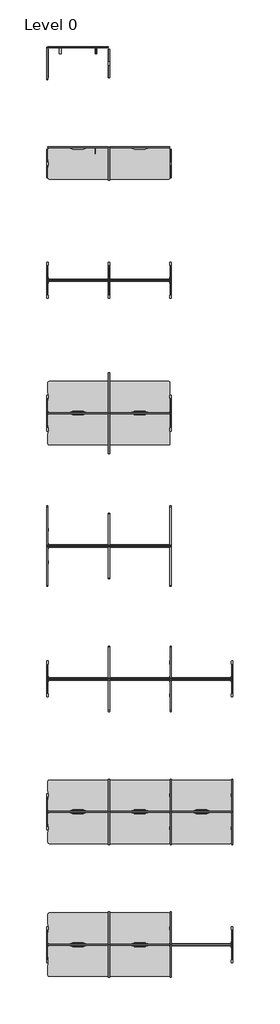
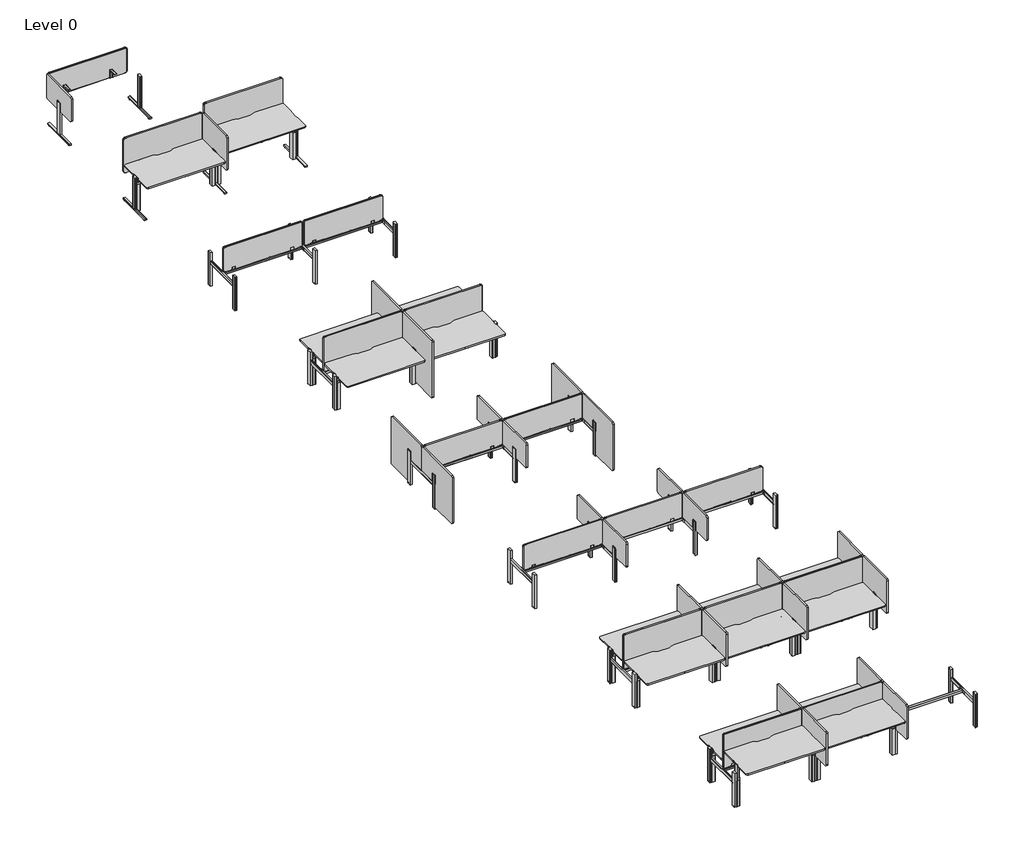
# One storey, incomplete: 75 furniture elements.
"""IFC4 building model written with IfcOpenShell, lengths in millimetres."""

from ifc_helpers import new_model, si_unit, origin, place, context, project, spatial, transform, mapped, element, save
from components import furniture_de327a2e, furniture_0de6fdd6, furniture_1050mm_high_desk_divider_a7e000da, furniture_1050mm_high_desk_divider_to_floor_1050mm_cd484663, furniture_1050mm_high_screen_for_1600mm_desk_4bbc980c, furniture_1050mm_high_screen_for_1600mm_desk_5fab72e6, furniture_1250mm_high_desk_divider_c3c9ed02, furniture_1250mm_high_desk_divider_to_floor_1050mm_4461f920, furniture_1250mm_high_screen_for_1600mm_desk_9eece2b1, furniture_1250mm_high_screen_for_1600mm_desk_d27042e6, furniture_1250mm_high_screen_for_1600mm_desk_09735f5d, add_on_frame_1600mm_back_to_back_desk_692f1a0c, add_on_frame_1600mm_single_desk_d9639cad, starter_frame_1600mm_back_to_back_desk_0066c329, starter_frame_1600mm_single_desk_b2a4bc26

model = new_model("IFC4")

# Units and contexts
model_context = context("Model", 3, world=origin())
ifc_project = project(units=[si_unit("LENGTHUNIT", "METRE", prefix="MILLI")], contexts=[model_context])

# Site, building, storey
site = spatial("IfcSite", under=ifc_project)
building = spatial("IfcBuilding", under=site)
storey = spatial("IfcBuildingStorey", under=building, Name="Level 0", Elevation=0.0)

# Furniture
placement = place(None, origin())
furniture_shape = furniture_de327a2e(model_context)
element("IfcFurniture", 1, ObjectType="DBLTD_TheSenatorGroup_OffcDsks_Workbase_Single_ElectricHAModule : 1600mm Single Electric Height Adjustable Desktop", at=placement, inside=storey, context=model_context, shape_type="MappedRepresentation", body=[
    mapped(furniture_shape, transform((-5012.408462, 3323.8236192, 0.0), x_axis=(1.0, 0.0, 0.0), y_axis=(0.0, 1.0, 0.0), z_axis=(0.0, 0.0, 1.0))),
])
element("IfcFurniture", 2, ObjectType="DBLTD_TheSenatorGroup_OffcDsks_Workbase_Single_ElectricHAModule : 1600mm Single Electric Height Adjustable Desktop", at=placement, inside=storey, context=model_context, shape_type="MappedRepresentation", body=[
    mapped(furniture_shape, transform((-5012.408462, -3576.1763808, 0.0), x_axis=(1.0, 0.0, 0.0), y_axis=(0.0, 1.0, 0.0), z_axis=(0.0, 0.0, 1.0))),
])
element("IfcFurniture", 3, ObjectType="DBLTD_TheSenatorGroup_OffcDsks_Workbase_Single_ElectricHAModule : 1600mm Single Electric Height Adjustable Desktop", at=placement, inside=storey, context=model_context, shape_type="MappedRepresentation", body=[
    mapped(furniture_shape, transform((-4857.408462, -1075.9760329, 0.0), x_axis=(-1.0, 0.0, 0.0), y_axis=(0.0, -1.0, 0.0), z_axis=(0.0, 0.0, 1.0))),
])
element("IfcFurniture", 4, ObjectType="DBLTD_TheSenatorGroup_OffcDsks_Workbase_Single_ElectricHAModule : 1600mm Single Electric Height Adjustable Desktop", at=placement, inside=storey, context=model_context, shape_type="MappedRepresentation", body=[
    mapped(furniture_shape, transform((-3412.3324161, -3576.1763808, 0.0), x_axis=(1.0, 0.0, 0.0), y_axis=(0.0, 1.0, 0.0), z_axis=(0.0, 0.0, 1.0))),
])
element("IfcFurniture", 5, ObjectType="DBLTD_TheSenatorGroup_OffcDsks_Workbase_Single_ElectricHAModule : 1600mm Single Electric Height Adjustable Desktop", at=placement, inside=storey, context=model_context, shape_type="MappedRepresentation", body=[
    mapped(furniture_shape, transform((-3257.3324161, -1075.9760329, 0.0), x_axis=(-1.0, 0.0, 0.0), y_axis=(0.0, -1.0, 0.0), z_axis=(0.0, 0.0, 1.0))),
])
element("IfcFurniture", 6, ObjectType="DBLTD_TheSenatorGroup_OffcDsks_Workbase_Single_ElectricHAModule : 1600mm Single Electric Height Adjustable Desktop", at=placement, inside=storey, context=model_context, shape_type="MappedRepresentation", body=[
    mapped(furniture_shape, transform((-5012.408462, -13926.1763808, 0.0), x_axis=(1.0, 0.0, 0.0), y_axis=(0.0, 1.0, 0.0), z_axis=(0.0, 0.0, 1.0))),
])
element("IfcFurniture", 7, ObjectType="DBLTD_TheSenatorGroup_OffcDsks_Workbase_Single_ElectricHAModule : 1600mm Single Electric Height Adjustable Desktop", at=placement, inside=storey, context=model_context, shape_type="MappedRepresentation", body=[
    mapped(furniture_shape, transform((-4857.408462, -11425.9760329, 0.0), x_axis=(-1.0, 0.0, 0.0), y_axis=(0.0, -1.0, 0.0), z_axis=(0.0, 0.0, 1.0))),
])
element("IfcFurniture", 8, ObjectType="DBLTD_TheSenatorGroup_OffcDsks_Workbase_Single_ElectricHAModule : 1600mm Single Electric Height Adjustable Desktop", at=placement, inside=storey, context=model_context, shape_type="MappedRepresentation", body=[
    mapped(furniture_shape, transform((-3412.3324161, -13926.1763808, 0.0), x_axis=(1.0, 0.0, 0.0), y_axis=(0.0, 1.0, 0.0), z_axis=(0.0, 0.0, 1.0))),
])
element("IfcFurniture", 9, ObjectType="DBLTD_TheSenatorGroup_OffcDsks_Workbase_Single_ElectricHAModule : 1600mm Single Electric Height Adjustable Desktop", at=placement, inside=storey, context=model_context, shape_type="MappedRepresentation", body=[
    mapped(furniture_shape, transform((-3257.3324161, -11425.9760329, 0.0), x_axis=(-1.0, 0.0, 0.0), y_axis=(0.0, -1.0, 0.0), z_axis=(0.0, 0.0, 1.0))),
])
element("IfcFurniture", 10, ObjectType="DBLTD_TheSenatorGroup_OffcDsks_Workbase_Single_ElectricHAModule : 1600mm Single Electric Height Adjustable Desktop", at=placement, inside=storey, context=model_context, shape_type="MappedRepresentation", body=[
    mapped(furniture_shape, transform((-1812.3324161, -13926.1763808, 0.0), x_axis=(1.0, 0.0, 0.0), y_axis=(0.0, 1.0, 0.0), z_axis=(0.0, 0.0, 1.0))),
])
element("IfcFurniture", 11, ObjectType="DBLTD_TheSenatorGroup_OffcDsks_Workbase_Single_ElectricHAModule : 1600mm Single Electric Height Adjustable Desktop", at=placement, inside=storey, context=model_context, shape_type="MappedRepresentation", body=[
    mapped(furniture_shape, transform((-1657.3324161, -11425.9760329, 0.0), x_axis=(-1.0, 0.0, 0.0), y_axis=(0.0, -1.0, 0.0), z_axis=(0.0, 0.0, 1.0))),
])
element("IfcFurniture", 12, ObjectType="DBLTD_TheSenatorGroup_OffcDsks_Workbase_Single_ElectricHAModule : 1600mm Single Electric Height Adjustable Desktop", at=placement, inside=storey, context=model_context, shape_type="MappedRepresentation", body=[
    mapped(furniture_shape, transform((-4857.408462, -14875.9760329, 0.0), x_axis=(-1.0, 0.0, 0.0), y_axis=(0.0, -1.0, 0.0), z_axis=(0.0, 0.0, 1.0))),
])
element("IfcFurniture", 13, ObjectType="DBLTD_TheSenatorGroup_OffcDsks_Workbase_Single_ElectricHAModule : 1600mm Single Electric Height Adjustable Desktop", at=placement, inside=storey, context=model_context, shape_type="MappedRepresentation", body=[
    mapped(furniture_shape, transform((-3257.3324161, -14875.9760329, 0.0), x_axis=(-1.0, 0.0, 0.0), y_axis=(0.0, -1.0, 0.0), z_axis=(0.0, 0.0, 1.0))),
])
furniture_2_shape = furniture_0de6fdd6(model_context)
element("IfcFurniture", 14, ObjectType="DBLTD_TheSenatorGroup_OffcDsks_Workbase_Single_ElectricHAModule : 1600mm Single Electric Height Adjustable Desktop", at=placement, inside=storey, context=model_context, shape_type="MappedRepresentation", body=[
    mapped(furniture_2_shape, transform((-3412.408462, 3323.8236192, 0.0), x_axis=(1.0, 0.0, 0.0), y_axis=(0.0, 1.0, 0.0), z_axis=(0.0, 0.0, 1.0))),
])
element("IfcFurniture", 15, ObjectType="DBLTD_TheSenatorGroup_OffcDsks_Workbase_Single_ElectricHAModule : 1600mm Single Electric Height Adjustable Desktop", at=placement, inside=storey, context=model_context, shape_type="MappedRepresentation", body=[
    mapped(furniture_2_shape, transform((-5012.408462, -17376.1763808, 0.0), x_axis=(1.0, 0.0, 0.0), y_axis=(0.0, 1.0, 0.0), z_axis=(0.0, 0.0, 1.0))),
])
element("IfcFurniture", 16, ObjectType="DBLTD_TheSenatorGroup_OffcDsks_Workbase_Single_ElectricHAModule : 1600mm Single Electric Height Adjustable Desktop", at=placement, inside=storey, context=model_context, shape_type="MappedRepresentation", body=[
    mapped(furniture_2_shape, transform((-3412.3324161, -17376.1763808, 0.0), x_axis=(1.0, 0.0, 0.0), y_axis=(0.0, 1.0, 0.0), z_axis=(0.0, 0.0, 1.0))),
])
furniture_1050mm_high_desk_divider_shape = furniture_1050mm_high_desk_divider_a7e000da(model_context)
element("IfcFurniture", 17, ObjectType="DBLTD_TheSenatorGroup_OffcDsks_Workbase_DeskDivider_FabricScreen : 1050mm High Desk Divider", at=placement, inside=storey, context=model_context, shape_type="MappedRepresentation", body=[
    mapped(furniture_1050mm_high_desk_divider_shape, transform((-5832.408462, 6348.8236192, 0.0), x_axis=(1.0, 0.0, 0.0), y_axis=(0.0, 1.0, 0.0), z_axis=(0.0, 0.0, 1.0))),
])
element("IfcFurniture", 18, ObjectType="DBLTD_TheSenatorGroup_OffcDsks_Workbase_DeskDivider_FabricScreen : 1050mm High Desk Divider", at=placement, inside=storey, context=model_context, shape_type="MappedRepresentation", body=[
    mapped(furniture_1050mm_high_desk_divider_shape, transform((-4232.2563701, -6601.1763808, 0.0), x_axis=(1.0, 0.0, 0.0), y_axis=(0.0, 1.0, 0.0), z_axis=(0.0, 0.0, 1.0))),
])
element("IfcFurniture", 19, ObjectType="DBLTD_TheSenatorGroup_OffcDsks_Workbase_DeskDivider_FabricScreen : 1050mm High Desk Divider", at=placement, inside=storey, context=model_context, shape_type="MappedRepresentation", body=[
    mapped(furniture_1050mm_high_desk_divider_shape, transform((-4037.3440852, -4950.9760329, 0.0), x_axis=(-1.0, 0.0, 0.0), y_axis=(0.0, -1.0, 0.0), z_axis=(0.0, 0.0, 1.0))),
])
element("IfcFurniture", 20, ObjectType="DBLTD_TheSenatorGroup_OffcDsks_Workbase_DeskDivider_FabricScreen : 1050mm High Desk Divider", at=placement, inside=storey, context=model_context, shape_type="MappedRepresentation", body=[
    mapped(furniture_1050mm_high_desk_divider_shape, transform((-4232.2563701, -10051.1763808, 0.0), x_axis=(1.0, 0.0, 0.0), y_axis=(0.0, 1.0, 0.0), z_axis=(0.0, 0.0, 1.0))),
])
element("IfcFurniture", 21, ObjectType="DBLTD_TheSenatorGroup_OffcDsks_Workbase_DeskDivider_FabricScreen : 1050mm High Desk Divider", at=placement, inside=storey, context=model_context, shape_type="MappedRepresentation", body=[
    mapped(furniture_1050mm_high_desk_divider_shape, transform((-4037.3440852, -8400.9760329, 0.0), x_axis=(-1.0, 0.0, 0.0), y_axis=(0.0, -1.0, 0.0), z_axis=(0.0, 0.0, 1.0))),
])
element("IfcFurniture", 22, ObjectType="DBLTD_TheSenatorGroup_OffcDsks_Workbase_DeskDivider_FabricScreen : 1050mm High Desk Divider", at=placement, inside=storey, context=model_context, shape_type="MappedRepresentation", body=[
    mapped(furniture_1050mm_high_desk_divider_shape, transform((-2632.4548, -10051.1763808, 0.0), x_axis=(1.0, 0.0, 0.0), y_axis=(0.0, 1.0, 0.0), z_axis=(0.0, 0.0, 1.0))),
])
element("IfcFurniture", 23, ObjectType="DBLTD_TheSenatorGroup_OffcDsks_Workbase_DeskDivider_FabricScreen : 1050mm High Desk Divider", at=placement, inside=storey, context=model_context, shape_type="MappedRepresentation", body=[
    mapped(furniture_1050mm_high_desk_divider_shape, transform((-2437.5425152, -8400.9760329, 0.0), x_axis=(-1.0, 0.0, 0.0), y_axis=(0.0, -1.0, 0.0), z_axis=(0.0, 0.0, 1.0))),
])
furniture_1050mm_high_desk_divider_to_floor_1050mm_shape = furniture_1050mm_high_desk_divider_to_floor_1050mm_cd484663(model_context)
element("IfcFurniture", 24, ObjectType="DBLTD_TheSenatorGroup_OffcDsks_Workbase_DeskDivider_FabricScreen : 1050mm High Desk Divider to Floor 1050mm", at=placement, inside=storey, context=model_context, shape_type="MappedRepresentation", body=[
    mapped(furniture_1050mm_high_desk_divider_to_floor_1050mm_shape, transform((-5831.2694547, -6601.1763808, 0.0), x_axis=(1.0, 0.0, 0.0), y_axis=(0.0, 1.0, 0.0), z_axis=(0.0, 0.0, 1.0))),
])
element("IfcFurniture", 25, ObjectType="DBLTD_TheSenatorGroup_OffcDsks_Workbase_DeskDivider_FabricScreen : 1050mm High Desk Divider to Floor 1050mm", at=placement, inside=storey, context=model_context, shape_type="MappedRepresentation", body=[
    mapped(furniture_1050mm_high_desk_divider_to_floor_1050mm_shape, transform((-5636.3571699, -4950.9760329, 0.0), x_axis=(-1.0, 0.0, 0.0), y_axis=(0.0, -1.0, 0.0), z_axis=(0.0, 0.0, 1.0))),
])
element("IfcFurniture", 26, ObjectType="DBLTD_TheSenatorGroup_OffcDsks_Workbase_DeskDivider_FabricScreen : 1050mm High Desk Divider to Floor 1050mm", at=placement, inside=storey, context=model_context, shape_type="MappedRepresentation", body=[
    mapped(furniture_1050mm_high_desk_divider_to_floor_1050mm_shape, transform((-2633.3723169, -6601.1763808, 0.0), x_axis=(1.0, 0.0, 0.0), y_axis=(0.0, 1.0, 0.0), z_axis=(0.0, 0.0, 1.0))),
])
element("IfcFurniture", 27, ObjectType="DBLTD_TheSenatorGroup_OffcDsks_Workbase_DeskDivider_FabricScreen : 1050mm High Desk Divider to Floor 1050mm", at=placement, inside=storey, context=model_context, shape_type="MappedRepresentation", body=[
    mapped(furniture_1050mm_high_desk_divider_to_floor_1050mm_shape, transform((-2438.4600321, -4950.9760329, 0.0), x_axis=(-1.0, 0.0, 0.0), y_axis=(0.0, -1.0, 0.0), z_axis=(0.0, 0.0, 1.0))),
])
furniture_1050mm_high_screen_for_1600mm_desk_shape = furniture_1050mm_high_screen_for_1600mm_desk_4bbc980c(model_context)
element("IfcFurniture", 28, ObjectType="DBLTD_TheSenatorGroup_OffcDsks_Workbase_BackToBack_FabricScreen : 1050mm High Screen for 1600mm Desk", at=placement, inside=storey, context=model_context, shape_type="MappedRepresentation", body=[
    mapped(furniture_1050mm_high_screen_for_1600mm_desk_shape, transform((-5012.408462, 298.8236192, 0.0), x_axis=(1.0, 0.0, 0.0), y_axis=(0.0, 1.0, 0.0), z_axis=(0.0, 0.0, 1.0))),
])
element("IfcFurniture", 29, ObjectType="DBLTD_TheSenatorGroup_OffcDsks_Workbase_BackToBack_FabricScreen : 1050mm High Screen for 1600mm Desk", at=placement, inside=storey, context=model_context, shape_type="MappedRepresentation", body=[
    mapped(furniture_1050mm_high_screen_for_1600mm_desk_shape, transform((-3412.3324161, 298.8236192, 0.0), x_axis=(1.0, 0.0, 0.0), y_axis=(0.0, 1.0, 0.0), z_axis=(0.0, 0.0, 1.0))),
])
element("IfcFurniture", 30, ObjectType="DBLTD_TheSenatorGroup_OffcDsks_Workbase_BackToBack_FabricScreen : 1050mm High Screen for 1600mm Desk", at=placement, inside=storey, context=model_context, shape_type="MappedRepresentation", body=[
    mapped(furniture_1050mm_high_screen_for_1600mm_desk_shape, transform((-5012.408462, -6601.1763808, 0.0), x_axis=(1.0, 0.0, 0.0), y_axis=(0.0, 1.0, 0.0), z_axis=(0.0, 0.0, 1.0))),
])
element("IfcFurniture", 31, ObjectType="DBLTD_TheSenatorGroup_OffcDsks_Workbase_BackToBack_FabricScreen : 1050mm High Screen for 1600mm Desk", at=placement, inside=storey, context=model_context, shape_type="MappedRepresentation", body=[
    mapped(furniture_1050mm_high_screen_for_1600mm_desk_shape, transform((-3412.3324161, -6601.1763808, 0.0), x_axis=(1.0, 0.0, 0.0), y_axis=(0.0, 1.0, 0.0), z_axis=(0.0, 0.0, 1.0))),
])
element("IfcFurniture", 32, ObjectType="DBLTD_TheSenatorGroup_OffcDsks_Workbase_BackToBack_FabricScreen : 1050mm High Screen for 1600mm Desk", at=placement, inside=storey, context=model_context, shape_type="MappedRepresentation", body=[
    mapped(furniture_1050mm_high_screen_for_1600mm_desk_shape, transform((-5012.408462, -10051.1763808, 0.0), x_axis=(1.0, 0.0, 0.0), y_axis=(0.0, 1.0, 0.0), z_axis=(0.0, 0.0, 1.0))),
])
element("IfcFurniture", 33, ObjectType="DBLTD_TheSenatorGroup_OffcDsks_Workbase_BackToBack_FabricScreen : 1050mm High Screen for 1600mm Desk", at=placement, inside=storey, context=model_context, shape_type="MappedRepresentation", body=[
    mapped(furniture_1050mm_high_screen_for_1600mm_desk_shape, transform((-3412.3324161, -10051.1763808, 0.0), x_axis=(1.0, 0.0, 0.0), y_axis=(0.0, 1.0, 0.0), z_axis=(0.0, 0.0, 1.0))),
])
element("IfcFurniture", 34, ObjectType="DBLTD_TheSenatorGroup_OffcDsks_Workbase_BackToBack_FabricScreen : 1050mm High Screen for 1600mm Desk", at=placement, inside=storey, context=model_context, shape_type="MappedRepresentation", body=[
    mapped(furniture_1050mm_high_screen_for_1600mm_desk_shape, transform((-1812.3324161, -10051.1763808, 0.0), x_axis=(1.0, 0.0, 0.0), y_axis=(0.0, 1.0, 0.0), z_axis=(0.0, 0.0, 1.0))),
])
furniture_1050mm_high_screen_for_1600mm_desk_2_shape = furniture_1050mm_high_screen_for_1600mm_desk_5fab72e6(model_context)
element("IfcFurniture", 35, ObjectType="DBLTD_TheSenatorGroup_OffcDsks_Workbase_Single_FabricScreen : 1050mm High Screen for 1600mm Desk", at=placement, inside=storey, context=model_context, shape_type="MappedRepresentation", body=[
    mapped(furniture_1050mm_high_screen_for_1600mm_desk_2_shape, transform((-5012.408462, 6348.8236192, 0.0), x_axis=(1.0, 0.0, 0.0), y_axis=(0.0, 1.0, 0.0), z_axis=(0.0, 0.0, 1.0))),
])
furniture_1250mm_high_desk_divider_shape = furniture_1250mm_high_desk_divider_c3c9ed02(model_context)
element("IfcFurniture", 36, ObjectType="DBLTD_TheSenatorGroup_OffcDsks_Workbase_DeskDivider_FabricScreen : 1250mm High Desk Divider", at=placement, inside=storey, context=model_context, shape_type="MappedRepresentation", body=[
    mapped(furniture_1250mm_high_desk_divider_shape, transform((-4232.4085383, 3748.8236192, 0.0), x_axis=(1.0, 0.0, 0.0), y_axis=(0.0, 1.0, 0.0), z_axis=(0.0, 0.0, 1.0))),
])
element("IfcFurniture", 37, ObjectType="DBLTD_TheSenatorGroup_OffcDsks_Workbase_DeskDivider_FabricScreen : 1250mm High Desk Divider", at=placement, inside=storey, context=model_context, shape_type="MappedRepresentation", body=[
    mapped(furniture_1250mm_high_desk_divider_shape, transform((-4232.2563701, -13501.1763808, 0.0), x_axis=(1.0, 0.0, 0.0), y_axis=(0.0, 1.0, 0.0), z_axis=(0.0, 0.0, 1.0))),
])
element("IfcFurniture", 38, ObjectType="DBLTD_TheSenatorGroup_OffcDsks_Workbase_DeskDivider_FabricScreen : 1250mm High Desk Divider", at=placement, inside=storey, context=model_context, shape_type="MappedRepresentation", body=[
    mapped(furniture_1250mm_high_desk_divider_shape, transform((-4037.3440852, -11850.9760329, 0.0), x_axis=(-1.0, 0.0, 0.0), y_axis=(0.0, -1.0, 0.0), z_axis=(0.0, 0.0, 1.0))),
])
element("IfcFurniture", 39, ObjectType="DBLTD_TheSenatorGroup_OffcDsks_Workbase_DeskDivider_FabricScreen : 1250mm High Desk Divider", at=placement, inside=storey, context=model_context, shape_type="MappedRepresentation", body=[
    mapped(furniture_1250mm_high_desk_divider_shape, transform((-2632.4548, -13501.1763808, 0.0), x_axis=(1.0, 0.0, 0.0), y_axis=(0.0, 1.0, 0.0), z_axis=(0.0, 0.0, 1.0))),
])
element("IfcFurniture", 40, ObjectType="DBLTD_TheSenatorGroup_OffcDsks_Workbase_DeskDivider_FabricScreen : 1250mm High Desk Divider", at=placement, inside=storey, context=model_context, shape_type="MappedRepresentation", body=[
    mapped(furniture_1250mm_high_desk_divider_shape, transform((-2437.5425152, -11850.9760329, 0.0), x_axis=(-1.0, 0.0, 0.0), y_axis=(0.0, -1.0, 0.0), z_axis=(0.0, 0.0, 1.0))),
])
element("IfcFurniture", 41, ObjectType="DBLTD_TheSenatorGroup_OffcDsks_Workbase_DeskDivider_FabricScreen : 1250mm High Desk Divider", at=placement, inside=storey, context=model_context, shape_type="MappedRepresentation", body=[
    mapped(furniture_1250mm_high_desk_divider_shape, transform((-1032.4548, -13501.1763808, 0.0), x_axis=(1.0, 0.0, 0.0), y_axis=(0.0, 1.0, 0.0), z_axis=(0.0, 0.0, 1.0))),
])
element("IfcFurniture", 42, ObjectType="DBLTD_TheSenatorGroup_OffcDsks_Workbase_DeskDivider_FabricScreen : 1250mm High Desk Divider", at=placement, inside=storey, context=model_context, shape_type="MappedRepresentation", body=[
    mapped(furniture_1250mm_high_desk_divider_shape, transform((-837.5425152, -11850.9760329, 0.0), x_axis=(-1.0, 0.0, 0.0), y_axis=(0.0, -1.0, 0.0), z_axis=(0.0, 0.0, 1.0))),
])
element("IfcFurniture", 43, ObjectType="DBLTD_TheSenatorGroup_OffcDsks_Workbase_DeskDivider_FabricScreen : 1250mm High Desk Divider", at=placement, inside=storey, context=model_context, shape_type="MappedRepresentation", body=[
    mapped(furniture_1250mm_high_desk_divider_shape, transform((-4232.2563701, -16951.1763808, 0.0), x_axis=(1.0, 0.0, 0.0), y_axis=(0.0, 1.0, 0.0), z_axis=(0.0, 0.0, 1.0))),
])
element("IfcFurniture", 44, ObjectType="DBLTD_TheSenatorGroup_OffcDsks_Workbase_DeskDivider_FabricScreen : 1250mm High Desk Divider", at=placement, inside=storey, context=model_context, shape_type="MappedRepresentation", body=[
    mapped(furniture_1250mm_high_desk_divider_shape, transform((-4037.3440852, -15300.9760329, 0.0), x_axis=(-1.0, 0.0, 0.0), y_axis=(0.0, -1.0, 0.0), z_axis=(0.0, 0.0, 1.0))),
])
element("IfcFurniture", 45, ObjectType="DBLTD_TheSenatorGroup_OffcDsks_Workbase_DeskDivider_FabricScreen : 1250mm High Desk Divider", at=placement, inside=storey, context=model_context, shape_type="MappedRepresentation", body=[
    mapped(furniture_1250mm_high_desk_divider_shape, transform((-2632.4548, -16951.1763808, 0.0), x_axis=(1.0, 0.0, 0.0), y_axis=(0.0, 1.0, 0.0), z_axis=(0.0, 0.0, 1.0))),
])
element("IfcFurniture", 46, ObjectType="DBLTD_TheSenatorGroup_OffcDsks_Workbase_DeskDivider_FabricScreen : 1250mm High Desk Divider", at=placement, inside=storey, context=model_context, shape_type="MappedRepresentation", body=[
    mapped(furniture_1250mm_high_desk_divider_shape, transform((-2437.5425152, -15300.9760329, 0.0), x_axis=(-1.0, 0.0, 0.0), y_axis=(0.0, -1.0, 0.0), z_axis=(0.0, 0.0, 1.0))),
])
furniture_1250mm_high_desk_divider_to_floor_1050mm_shape = furniture_1250mm_high_desk_divider_to_floor_1050mm_4461f920(model_context)
element("IfcFurniture", 47, ObjectType="DBLTD_TheSenatorGroup_OffcDsks_Workbase_DeskDivider_FabricScreen : 1250mm High Desk Divider to Floor 1050mm", at=placement, inside=storey, context=model_context, shape_type="MappedRepresentation", body=[
    mapped(furniture_1250mm_high_desk_divider_to_floor_1050mm_shape, transform((-4232.2563701, -3151.1763808, 0.0), x_axis=(1.0, 0.0, 0.0), y_axis=(0.0, 1.0, 0.0), z_axis=(0.0, 0.0, 1.0))),
])
element("IfcFurniture", 48, ObjectType="DBLTD_TheSenatorGroup_OffcDsks_Workbase_DeskDivider_FabricScreen : 1250mm High Desk Divider to Floor 1050mm", at=placement, inside=storey, context=model_context, shape_type="MappedRepresentation", body=[
    mapped(furniture_1250mm_high_desk_divider_to_floor_1050mm_shape, transform((-4037.3440852, -1500.9760329, 0.0), x_axis=(-1.0, 0.0, 0.0), y_axis=(0.0, -1.0, 0.0), z_axis=(0.0, 0.0, 1.0))),
])
furniture_1250mm_high_screen_for_1600mm_desk_shape = furniture_1250mm_high_screen_for_1600mm_desk_9eece2b1(model_context)
element("IfcFurniture", 49, ObjectType="DBLTD_TheSenatorGroup_OffcDsks_Workbase_BackToBack_FabricScreen : 1250mm High Screen for 1600mm Desk", at=placement, inside=storey, context=model_context, shape_type="MappedRepresentation", body=[
    mapped(furniture_1250mm_high_screen_for_1600mm_desk_shape, transform((-5012.408462, -3151.1763808, 0.0), x_axis=(1.0, 0.0, 0.0), y_axis=(0.0, 1.0, 0.0), z_axis=(0.0, 0.0, 1.0))),
])
element("IfcFurniture", 50, ObjectType="DBLTD_TheSenatorGroup_OffcDsks_Workbase_BackToBack_FabricScreen : 1250mm High Screen for 1600mm Desk", at=placement, inside=storey, context=model_context, shape_type="MappedRepresentation", body=[
    mapped(furniture_1250mm_high_screen_for_1600mm_desk_shape, transform((-3412.3324161, -3151.1763808, 0.0), x_axis=(1.0, 0.0, 0.0), y_axis=(0.0, 1.0, 0.0), z_axis=(0.0, 0.0, 1.0))),
])
element("IfcFurniture", 51, ObjectType="DBLTD_TheSenatorGroup_OffcDsks_Workbase_BackToBack_FabricScreen : 1250mm High Screen for 1600mm Desk", at=placement, inside=storey, context=model_context, shape_type="MappedRepresentation", body=[
    mapped(furniture_1250mm_high_screen_for_1600mm_desk_shape, transform((-5012.408462, -13501.1763808, 0.0), x_axis=(1.0, 0.0, 0.0), y_axis=(0.0, 1.0, 0.0), z_axis=(0.0, 0.0, 1.0))),
])
element("IfcFurniture", 52, ObjectType="DBLTD_TheSenatorGroup_OffcDsks_Workbase_BackToBack_FabricScreen : 1250mm High Screen for 1600mm Desk", at=placement, inside=storey, context=model_context, shape_type="MappedRepresentation", body=[
    mapped(furniture_1250mm_high_screen_for_1600mm_desk_shape, transform((-3412.3324161, -13501.1763808, 0.0), x_axis=(1.0, 0.0, 0.0), y_axis=(0.0, 1.0, 0.0), z_axis=(0.0, 0.0, 1.0))),
])
element("IfcFurniture", 53, ObjectType="DBLTD_TheSenatorGroup_OffcDsks_Workbase_BackToBack_FabricScreen : 1250mm High Screen for 1600mm Desk", at=placement, inside=storey, context=model_context, shape_type="MappedRepresentation", body=[
    mapped(furniture_1250mm_high_screen_for_1600mm_desk_shape, transform((-1812.3324161, -13501.1763808, 0.0), x_axis=(1.0, 0.0, 0.0), y_axis=(0.0, 1.0, 0.0), z_axis=(0.0, 0.0, 1.0))),
])
element("IfcFurniture", 54, ObjectType="DBLTD_TheSenatorGroup_OffcDsks_Workbase_BackToBack_FabricScreen : 1250mm High Screen for 1600mm Desk", at=placement, inside=storey, context=model_context, shape_type="MappedRepresentation", body=[
    mapped(furniture_1250mm_high_screen_for_1600mm_desk_shape, transform((-5012.408462, -16951.1763808, 0.0), x_axis=(1.0, 0.0, 0.0), y_axis=(0.0, 1.0, 0.0), z_axis=(0.0, 0.0, 1.0))),
])
element("IfcFurniture", 55, ObjectType="DBLTD_TheSenatorGroup_OffcDsks_Workbase_BackToBack_FabricScreen : 1250mm High Screen for 1600mm Desk", at=placement, inside=storey, context=model_context, shape_type="MappedRepresentation", body=[
    mapped(furniture_1250mm_high_screen_for_1600mm_desk_shape, transform((-3412.3324161, -16951.1763808, 0.0), x_axis=(1.0, 0.0, 0.0), y_axis=(0.0, 1.0, 0.0), z_axis=(0.0, 0.0, 1.0))),
])
furniture_1250mm_high_screen_for_1600mm_desk_2_shape = furniture_1250mm_high_screen_for_1600mm_desk_d27042e6(model_context)
element("IfcFurniture", 56, ObjectType="DBLTD_TheSenatorGroup_OffcDsks_Workbase_Single_FabricScreen : 1250mm High Screen for 1600mm Desk", at=placement, inside=storey, context=model_context, shape_type="MappedRepresentation", body=[
    mapped(furniture_1250mm_high_screen_for_1600mm_desk_2_shape, transform((-5012.408462, 3748.8236192, 0.0), x_axis=(1.0, 0.0, 0.0), y_axis=(0.0, 1.0, 0.0), z_axis=(0.0, 0.0, 1.0))),
])
furniture_1250mm_high_screen_for_1600mm_desk_3_shape = furniture_1250mm_high_screen_for_1600mm_desk_09735f5d(model_context)
element("IfcFurniture", 57, ObjectType="DBLTD_TheSenatorGroup_OffcDsks_Workbase_Single_FabricScreen : 1250mm High Screen for 1600mm Desk", at=placement, inside=storey, context=model_context, shape_type="MappedRepresentation", body=[
    mapped(furniture_1250mm_high_screen_for_1600mm_desk_3_shape, transform((-3412.408462, 3748.8236192, 0.0), x_axis=(1.0, 0.0, 0.0), y_axis=(0.0, 1.0, 0.0), z_axis=(0.0, 0.0, 1.0))),
])
add_on_frame_1600mm_back_to_back_desk_shape = add_on_frame_1600mm_back_to_back_desk_692f1a0c(model_context)
element("IfcFurniture", 58, ObjectType="DBLTD_TheSenatorGroup_OffcDsks_Workbase_BackToBack_AddOnFrame : Add On Frame, 1600mm Back to Back Desk", at=placement, inside=storey, context=model_context, shape_type="MappedRepresentation", body=[
    mapped(add_on_frame_1600mm_back_to_back_desk_shape, transform((-3412.3324161, 298.8236192, 0.0), x_axis=(1.0, 0.0, 0.0), y_axis=(0.0, 1.0, 0.0), z_axis=(0.0, 0.0, 1.0))),
])
element("IfcFurniture", 59, ObjectType="DBLTD_TheSenatorGroup_OffcDsks_Workbase_BackToBack_AddOnFrame : Add On Frame, 1600mm Back to Back Desk", at=placement, inside=storey, context=model_context, shape_type="MappedRepresentation", body=[
    mapped(add_on_frame_1600mm_back_to_back_desk_shape, transform((-3412.3324161, -3151.1763808, 0.0), x_axis=(1.0, 0.0, 0.0), y_axis=(0.0, 1.0, 0.0), z_axis=(0.0, 0.0, 1.0))),
])
element("IfcFurniture", 60, ObjectType="DBLTD_TheSenatorGroup_OffcDsks_Workbase_BackToBack_AddOnFrame : Add On Frame, 1600mm Back to Back Desk", at=placement, inside=storey, context=model_context, shape_type="MappedRepresentation", body=[
    mapped(add_on_frame_1600mm_back_to_back_desk_shape, transform((-3412.3324161, -6601.1763808, 0.0), x_axis=(1.0, 0.0, 0.0), y_axis=(0.0, 1.0, 0.0), z_axis=(0.0, 0.0, 1.0))),
])
element("IfcFurniture", 61, ObjectType="DBLTD_TheSenatorGroup_OffcDsks_Workbase_BackToBack_AddOnFrame : Add On Frame, 1600mm Back to Back Desk", at=placement, inside=storey, context=model_context, shape_type="MappedRepresentation", body=[
    mapped(add_on_frame_1600mm_back_to_back_desk_shape, transform((-3412.3324161, -10051.1763808, 0.0), x_axis=(1.0, 0.0, 0.0), y_axis=(0.0, 1.0, 0.0), z_axis=(0.0, 0.0, 1.0))),
])
element("IfcFurniture", 62, ObjectType="DBLTD_TheSenatorGroup_OffcDsks_Workbase_BackToBack_AddOnFrame : Add On Frame, 1600mm Back to Back Desk", at=placement, inside=storey, context=model_context, shape_type="MappedRepresentation", body=[
    mapped(add_on_frame_1600mm_back_to_back_desk_shape, transform((-1812.3324161, -10051.1763808, 0.0), x_axis=(1.0, 0.0, 0.0), y_axis=(0.0, 1.0, 0.0), z_axis=(0.0, 0.0, 1.0))),
])
element("IfcFurniture", 63, ObjectType="DBLTD_TheSenatorGroup_OffcDsks_Workbase_BackToBack_AddOnFrame : Add On Frame, 1600mm Back to Back Desk", at=placement, inside=storey, context=model_context, shape_type="MappedRepresentation", body=[
    mapped(add_on_frame_1600mm_back_to_back_desk_shape, transform((-3412.3324161, -13501.1763808, 0.0), x_axis=(1.0, 0.0, 0.0), y_axis=(0.0, 1.0, 0.0), z_axis=(0.0, 0.0, 1.0))),
])
element("IfcFurniture", 64, ObjectType="DBLTD_TheSenatorGroup_OffcDsks_Workbase_BackToBack_AddOnFrame : Add On Frame, 1600mm Back to Back Desk", at=placement, inside=storey, context=model_context, shape_type="MappedRepresentation", body=[
    mapped(add_on_frame_1600mm_back_to_back_desk_shape, transform((-1812.3324161, -13501.1763808, 0.0), x_axis=(1.0, 0.0, 0.0), y_axis=(0.0, 1.0, 0.0), z_axis=(0.0, 0.0, 1.0))),
])
element("IfcFurniture", 65, ObjectType="DBLTD_TheSenatorGroup_OffcDsks_Workbase_BackToBack_AddOnFrame : Add On Frame, 1600mm Back to Back Desk", at=placement, inside=storey, context=model_context, shape_type="MappedRepresentation", body=[
    mapped(add_on_frame_1600mm_back_to_back_desk_shape, transform((-3412.3324161, -16951.1763808, 0.0), x_axis=(1.0, 0.0, 0.0), y_axis=(0.0, 1.0, 0.0), z_axis=(0.0, 0.0, 1.0))),
])
element("IfcFurniture", 66, ObjectType="DBLTD_TheSenatorGroup_OffcDsks_Workbase_BackToBack_AddOnFrame : Add On Frame, 1600mm Back to Back Desk", at=placement, inside=storey, context=model_context, shape_type="MappedRepresentation", body=[
    mapped(add_on_frame_1600mm_back_to_back_desk_shape, transform((-1812.3324161, -16951.1763808, 0.0), x_axis=(1.0, 0.0, 0.0), y_axis=(0.0, 1.0, 0.0), z_axis=(0.0, 0.0, 1.0))),
])
add_on_frame_1600mm_single_desk_shape = add_on_frame_1600mm_single_desk_d9639cad(model_context)
element("IfcFurniture", 67, ObjectType="DBLTD_TheSenatorGroup_OffcDsks_Workbase_Single_AddOnFrame : Add On Frame, 1600mm Single Desk", at=placement, inside=storey, context=model_context, shape_type="MappedRepresentation", body=[
    mapped(add_on_frame_1600mm_single_desk_shape, transform((-3412.408462, 3323.8236192, 0.0), x_axis=(1.0, 0.0, 0.0), y_axis=(0.0, 1.0, 0.0), z_axis=(0.0, 0.0, 1.0))),
])
starter_frame_1600mm_back_to_back_desk_shape = starter_frame_1600mm_back_to_back_desk_0066c329(model_context)
element("IfcFurniture", 68, ObjectType="DBLTD_TheSenatorGroup_OffcDsks_Workbase_BackToBack_StarterFrame : Starter Frame, 1600mm Back to Back Desk", at=placement, inside=storey, context=model_context, shape_type="MappedRepresentation", body=[
    mapped(starter_frame_1600mm_back_to_back_desk_shape, transform((-5012.408462, 298.8236192, 0.0), x_axis=(1.0, 0.0, 0.0), y_axis=(0.0, 1.0, 0.0), z_axis=(0.0, 0.0, 1.0))),
])
element("IfcFurniture", 69, ObjectType="DBLTD_TheSenatorGroup_OffcDsks_Workbase_BackToBack_StarterFrame : Starter Frame, 1600mm Back to Back Desk", at=placement, inside=storey, context=model_context, shape_type="MappedRepresentation", body=[
    mapped(starter_frame_1600mm_back_to_back_desk_shape, transform((-5012.408462, -3151.1763808, 0.0), x_axis=(1.0, 0.0, 0.0), y_axis=(0.0, 1.0, 0.0), z_axis=(0.0, 0.0, 1.0))),
])
element("IfcFurniture", 70, ObjectType="DBLTD_TheSenatorGroup_OffcDsks_Workbase_BackToBack_StarterFrame : Starter Frame, 1600mm Back to Back Desk", at=placement, inside=storey, context=model_context, shape_type="MappedRepresentation", body=[
    mapped(starter_frame_1600mm_back_to_back_desk_shape, transform((-5012.408462, -6601.1763808, 0.0), x_axis=(1.0, 0.0, 0.0), y_axis=(0.0, 1.0, 0.0), z_axis=(0.0, 0.0, 1.0))),
])
element("IfcFurniture", 71, ObjectType="DBLTD_TheSenatorGroup_OffcDsks_Workbase_BackToBack_StarterFrame : Starter Frame, 1600mm Back to Back Desk", at=placement, inside=storey, context=model_context, shape_type="MappedRepresentation", body=[
    mapped(starter_frame_1600mm_back_to_back_desk_shape, transform((-5012.408462, -10051.1763808, 0.0), x_axis=(1.0, 0.0, 0.0), y_axis=(0.0, 1.0, 0.0), z_axis=(0.0, 0.0, 1.0))),
])
element("IfcFurniture", 72, ObjectType="DBLTD_TheSenatorGroup_OffcDsks_Workbase_BackToBack_StarterFrame : Starter Frame, 1600mm Back to Back Desk", at=placement, inside=storey, context=model_context, shape_type="MappedRepresentation", body=[
    mapped(starter_frame_1600mm_back_to_back_desk_shape, transform((-5012.408462, -13501.1763808, 0.0), x_axis=(1.0, 0.0, 0.0), y_axis=(0.0, 1.0, 0.0), z_axis=(0.0, 0.0, 1.0))),
])
element("IfcFurniture", 73, ObjectType="DBLTD_TheSenatorGroup_OffcDsks_Workbase_BackToBack_StarterFrame : Starter Frame, 1600mm Back to Back Desk", at=placement, inside=storey, context=model_context, shape_type="MappedRepresentation", body=[
    mapped(starter_frame_1600mm_back_to_back_desk_shape, transform((-5012.408462, -16951.1763808, 0.0), x_axis=(1.0, 0.0, 0.0), y_axis=(0.0, 1.0, 0.0), z_axis=(0.0, 0.0, 1.0))),
])
starter_frame_1600mm_single_desk_shape = starter_frame_1600mm_single_desk_b2a4bc26(model_context)
element("IfcFurniture", 74, ObjectType="DBLTD_TheSenatorGroup_OffcDsks_Workbase_Single_StarterFrame : Starter Frame, 1600mm Single Desk", at=placement, inside=storey, context=model_context, shape_type="MappedRepresentation", body=[
    mapped(starter_frame_1600mm_single_desk_shape, transform((-5012.408462, 5923.8236192, 0.0), x_axis=(1.0, 0.0, 0.0), y_axis=(0.0, 1.0, 0.0), z_axis=(0.0, 0.0, 1.0))),
])
element("IfcFurniture", 75, ObjectType="DBLTD_TheSenatorGroup_OffcDsks_Workbase_Single_StarterFrame : Starter Frame, 1600mm Single Desk", at=placement, inside=storey, context=model_context, shape_type="MappedRepresentation", body=[
    mapped(starter_frame_1600mm_single_desk_shape, transform((-5012.408462, 3323.8236192, 0.0), x_axis=(1.0, 0.0, 0.0), y_axis=(0.0, 1.0, 0.0), z_axis=(0.0, 0.0, 1.0))),
])

save(model, "model.ifc")
